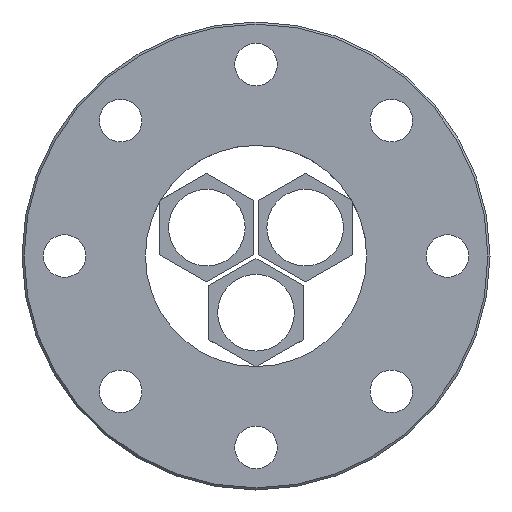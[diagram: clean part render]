
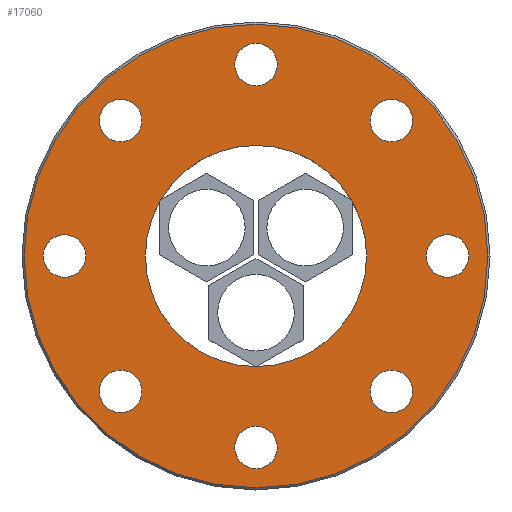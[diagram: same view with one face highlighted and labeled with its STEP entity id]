
A CAD part, left-side view. The second image highlights one B-rep face of the part: STEP entity #17060.
In plain terms, the highlighted planar face has unit normal (-1, 0, 0).
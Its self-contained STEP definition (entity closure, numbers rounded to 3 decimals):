
#4970=CARTESIAN_POINT('',(-82.,-73.64,63.64));
#4980=VERTEX_POINT('',#4970);
#5010=CARTESIAN_POINT('',(-82.,-63.64,63.64));
#5020=DIRECTION('',(-1.,0.,0.));
#5030=DIRECTION('',(0.,-1.,0.));
#5040=AXIS2_PLACEMENT_3D('',#5010,#5020,#5030);
#5050=CIRCLE('',#5040,10.);
#5060=CARTESIAN_POINT('',(-82.,-53.64,63.64));
#5070=VERTEX_POINT('',#5060);
#5080=EDGE_CURVE('',#5070,#4980,#5050,.T.);
#15610=CARTESIAN_POINT('',(-82.,53.188,2.222));
#15620=DIRECTION('',(-1.,0.,0.));
#15630=DIRECTION('',(0.,-1.,0.));
#15640=AXIS2_PLACEMENT_3D('',#15610,#15620,#15630);
#15650=PLANE('',#15640);
#15660=CARTESIAN_POINT('',(-82.,0.,0.));
#15670=DIRECTION('',(-1.,0.,0.));
#15680=DIRECTION('',(0.,-1.,0.));
#15690=AXIS2_PLACEMENT_3D('',#15660,#15670,#15680);
#15700=CIRCLE('',#15690,52.);
#15710=CARTESIAN_POINT('',(-82.,-52.,0.));
#15720=VERTEX_POINT('',#15710);
#15730=CARTESIAN_POINT('',(-82.,52.,0.));
#15740=VERTEX_POINT('',#15730);
#15750=EDGE_CURVE('',#15720,#15740,#15700,.T.);
#15760=ORIENTED_EDGE('',*,*,#15750,.F.);
#15770=EDGE_CURVE('',#15740,#15720,#15700,.T.);
#15780=ORIENTED_EDGE('',*,*,#15770,.F.);
#15790=EDGE_LOOP('',(#15780,#15760));
#15800=FACE_BOUND('',#15790,.T.);
#15810=CARTESIAN_POINT('',(-82.,63.64,63.64));
#15820=DIRECTION('',(-1.,0.,0.));
#15830=DIRECTION('',(0.,-1.,0.));
#15840=AXIS2_PLACEMENT_3D('',#15810,#15820,#15830);
#15850=CIRCLE('',#15840,10.);
#15860=CARTESIAN_POINT('',(-82.,53.64,63.64));
#15870=VERTEX_POINT('',#15860);
#15880=CARTESIAN_POINT('',(-82.,73.64,63.64));
#15890=VERTEX_POINT('',#15880);
#15900=EDGE_CURVE('',#15870,#15890,#15850,.T.);
#15910=ORIENTED_EDGE('',*,*,#15900,.F.);
#15920=EDGE_CURVE('',#15890,#15870,#15850,.T.);
#15930=ORIENTED_EDGE('',*,*,#15920,.F.);
#15940=EDGE_LOOP('',(#15930,#15910));
#15950=FACE_BOUND('',#15940,.T.);
#15960=CARTESIAN_POINT('',(-82.,90.,0.));
#15970=DIRECTION('',(-1.,0.,0.));
#15980=DIRECTION('',(0.,-1.,0.));
#15990=AXIS2_PLACEMENT_3D('',#15960,#15970,#15980);
#16000=CIRCLE('',#15990,10.);
#16010=CARTESIAN_POINT('',(-82.,80.,0.));
#16020=VERTEX_POINT('',#16010);
#16030=CARTESIAN_POINT('',(-82.,100.,0.));
#16040=VERTEX_POINT('',#16030);
#16050=EDGE_CURVE('',#16020,#16040,#16000,.T.);
#16060=ORIENTED_EDGE('',*,*,#16050,.F.);
#16070=EDGE_CURVE('',#16040,#16020,#16000,.T.);
#16080=ORIENTED_EDGE('',*,*,#16070,.F.);
#16090=EDGE_LOOP('',(#16080,#16060));
#16100=FACE_BOUND('',#16090,.T.);
#16110=CARTESIAN_POINT('',(-82.,63.64,-63.64));
#16120=DIRECTION('',(-1.,0.,0.));
#16130=DIRECTION('',(0.,-1.,0.));
#16140=AXIS2_PLACEMENT_3D('',#16110,#16120,#16130);
#16150=CIRCLE('',#16140,10.);
#16160=CARTESIAN_POINT('',(-82.,53.64,-63.64));
#16170=VERTEX_POINT('',#16160);
#16180=CARTESIAN_POINT('',(-82.,73.64,-63.64));
#16190=VERTEX_POINT('',#16180);
#16200=EDGE_CURVE('',#16170,#16190,#16150,.T.);
#16210=ORIENTED_EDGE('',*,*,#16200,.F.);
#16220=EDGE_CURVE('',#16190,#16170,#16150,.T.);
#16230=ORIENTED_EDGE('',*,*,#16220,.F.);
#16240=EDGE_LOOP('',(#16230,#16210));
#16250=FACE_BOUND('',#16240,.T.);
#16260=CARTESIAN_POINT('',(-82.,0.,-90.));
#16270=DIRECTION('',(-1.,0.,0.));
#16280=DIRECTION('',(0.,-1.,0.));
#16290=AXIS2_PLACEMENT_3D('',#16260,#16270,#16280);
#16300=CIRCLE('',#16290,10.);
#16310=CARTESIAN_POINT('',(-82.,-10.,-90.));
#16320=VERTEX_POINT('',#16310);
#16330=CARTESIAN_POINT('',(-82.,10.,-90.));
#16340=VERTEX_POINT('',#16330);
#16350=EDGE_CURVE('',#16320,#16340,#16300,.T.);
#16360=ORIENTED_EDGE('',*,*,#16350,.F.);
#16370=EDGE_CURVE('',#16340,#16320,#16300,.T.);
#16380=ORIENTED_EDGE('',*,*,#16370,.F.);
#16390=EDGE_LOOP('',(#16380,#16360));
#16400=FACE_BOUND('',#16390,.T.);
#16410=CARTESIAN_POINT('',(-82.,-63.64,-63.64));
#16420=DIRECTION('',(-1.,0.,0.));
#16430=DIRECTION('',(0.,-1.,0.));
#16440=AXIS2_PLACEMENT_3D('',#16410,#16420,#16430);
#16450=CIRCLE('',#16440,10.);
#16460=CARTESIAN_POINT('',(-82.,-73.64,-63.64));
#16470=VERTEX_POINT('',#16460);
#16480=CARTESIAN_POINT('',(-82.,-53.64,-63.64));
#16490=VERTEX_POINT('',#16480);
#16500=EDGE_CURVE('',#16470,#16490,#16450,.T.);
#16510=ORIENTED_EDGE('',*,*,#16500,.F.);
#16520=EDGE_CURVE('',#16490,#16470,#16450,.T.);
#16530=ORIENTED_EDGE('',*,*,#16520,.F.);
#16540=EDGE_LOOP('',(#16530,#16510));
#16550=FACE_BOUND('',#16540,.T.);
#16560=CARTESIAN_POINT('',(-82.,-90.,0.));
#16570=DIRECTION('',(-1.,0.,0.));
#16580=DIRECTION('',(0.,-1.,0.));
#16590=AXIS2_PLACEMENT_3D('',#16560,#16570,#16580);
#16600=CIRCLE('',#16590,10.);
#16610=CARTESIAN_POINT('',(-82.,-100.,0.));
#16620=VERTEX_POINT('',#16610);
#16630=CARTESIAN_POINT('',(-82.,-80.,0.));
#16640=VERTEX_POINT('',#16630);
#16650=EDGE_CURVE('',#16620,#16640,#16600,.T.);
#16660=ORIENTED_EDGE('',*,*,#16650,.F.);
#16670=EDGE_CURVE('',#16640,#16620,#16600,.T.);
#16680=ORIENTED_EDGE('',*,*,#16670,.F.);
#16690=EDGE_LOOP('',(#16680,#16660));
#16700=FACE_BOUND('',#16690,.T.);
#16710=EDGE_CURVE('',#4980,#5070,#5050,.T.);
#16720=ORIENTED_EDGE('',*,*,#16710,.F.);
#16730=ORIENTED_EDGE('',*,*,#5080,.F.);
#16740=EDGE_LOOP('',(#16730,#16720));
#16750=FACE_BOUND('',#16740,.T.);
#16760=CARTESIAN_POINT('',(-82.,0.,90.));
#16770=DIRECTION('',(-1.,0.,0.));
#16780=DIRECTION('',(0.,-1.,0.));
#16790=AXIS2_PLACEMENT_3D('',#16760,#16770,#16780);
#16800=CIRCLE('',#16790,10.);
#16810=CARTESIAN_POINT('',(-82.,-10.,90.));
#16820=VERTEX_POINT('',#16810);
#16830=CARTESIAN_POINT('',(-82.,10.,90.));
#16840=VERTEX_POINT('',#16830);
#16850=EDGE_CURVE('',#16820,#16840,#16800,.T.);
#16860=ORIENTED_EDGE('',*,*,#16850,.F.);
#16870=EDGE_CURVE('',#16840,#16820,#16800,.T.);
#16880=ORIENTED_EDGE('',*,*,#16870,.F.);
#16890=EDGE_LOOP('',(#16880,#16860));
#16900=FACE_BOUND('',#16890,.T.);
#16910=CARTESIAN_POINT('',(-82.,0.,0.));
#16920=DIRECTION('',(-1.,0.,0.));
#16930=DIRECTION('',(0.,1.,0.));
#16940=AXIS2_PLACEMENT_3D('',#16910,#16920,#16930);
#16950=CIRCLE('',#16940,109.);
#16960=CARTESIAN_POINT('',(-82.,-109.,0.));
#16970=VERTEX_POINT('',#16960);
#16980=CARTESIAN_POINT('',(-82.,109.,0.));
#16990=VERTEX_POINT('',#16980);
#17000=EDGE_CURVE('',#16970,#16990,#16950,.T.);
#17010=ORIENTED_EDGE('',*,*,#17000,.T.);
#17020=EDGE_CURVE('',#16990,#16970,#16950,.T.);
#17030=ORIENTED_EDGE('',*,*,#17020,.T.);
#17040=EDGE_LOOP('',(#17030,#17010));
#17050=FACE_OUTER_BOUND('',#17040,.T.);
#17060=ADVANCED_FACE('',(#15800,#15950,#16100,#16250,#16400,#16550,
#16700,#16750,#16900,#17050),#15650,.T.);
